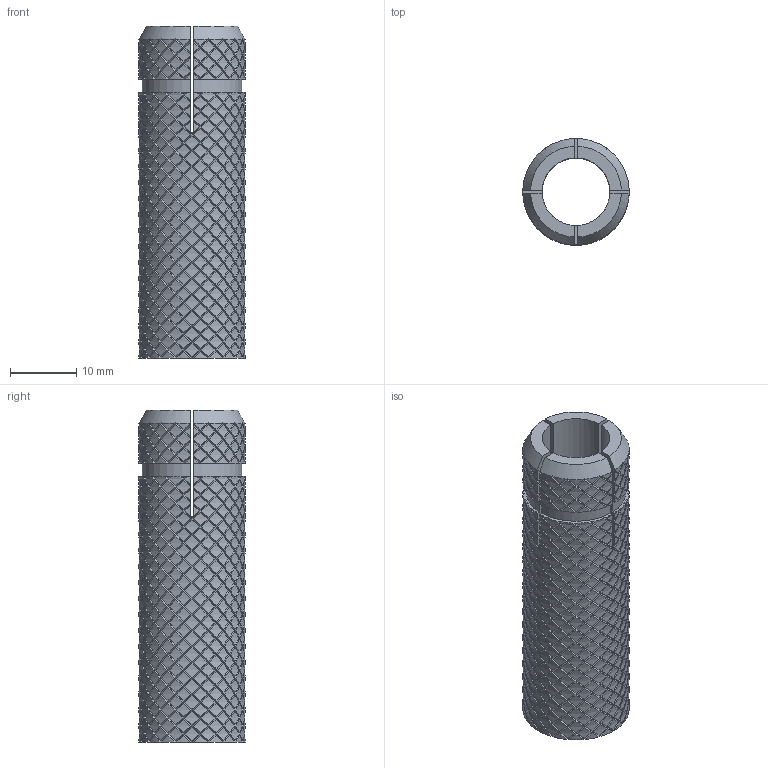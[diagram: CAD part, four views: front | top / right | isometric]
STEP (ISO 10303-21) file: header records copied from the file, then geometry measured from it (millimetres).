
FILE_DESCRIPTION (( 'STEP AP203' ), '1' );
FILE_NAME ('CLP1M-AL-12 Àíêåð ëàòóííûé çàáèâíîé Ì12.STEP', '2016-02-16T07:33:32', ( '' ), ( '' ), 'SwSTEP 2.0', 'SolidWorks 2014', '' );
FILE_SCHEMA (( 'CONFIG_CONTROL_DESIGN' ));
Products named in the file (1): CLP1M-AL-12 Àíêåð ëàòóííûé çàáèâíîé Ì12
Bounding box: 16 x 16 x 50 mm (x, y, z)
Volume: 5312.7 mm3; surface area: 6273.8 mm2
Topology: 1 solids, 1 shells, 4140 faces, 8584 edges, 4445 vertices
Faces by surface type: bspline 3200, cylinder 872, cone 43, plane 25
Full cylindrical faces by diameter (mm): 10.2 x20
Entity records: 686955 total; most frequent: CARTESIAN_POINT 637303, ORIENTED_EDGE 17046, EDGE_CURVE 8523, VERTEX_POINT 4443, EDGE_LOOP 4200, FACE_OUTER_BOUND 4160, ADVANCED_FACE 4140, DIRECTION 2452
